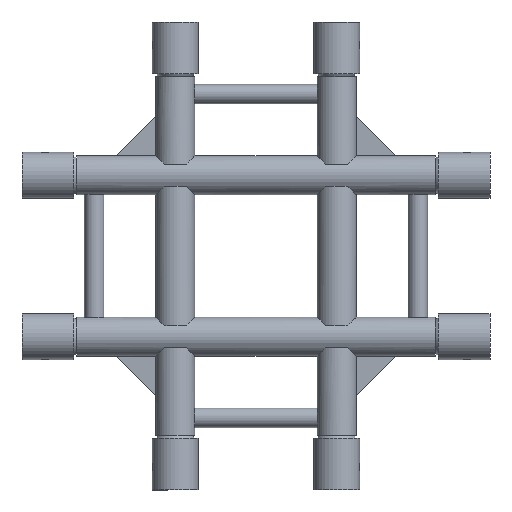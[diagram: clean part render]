
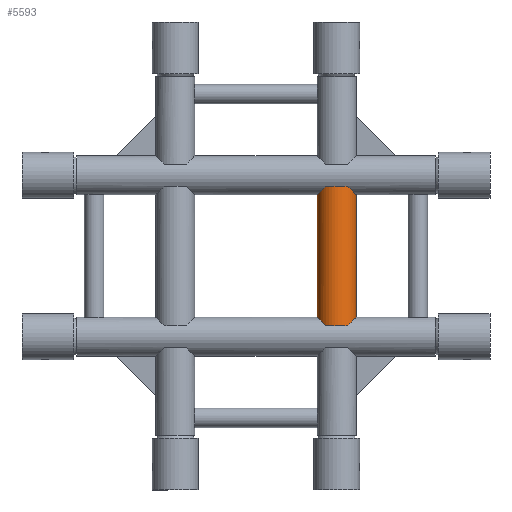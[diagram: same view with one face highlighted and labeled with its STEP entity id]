
A CAD part, front view. The second image highlights one B-rep face of the part: STEP entity #5593.
In plain terms, the highlighted cylindrical face has radius 25 mm (diameter 50 mm), a full revolution.
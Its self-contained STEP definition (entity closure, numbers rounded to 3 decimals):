
#38=ELLIPSE('',#5702,35.355,25.);
#39=ELLIPSE('',#5703,35.355,25.);
#80=ELLIPSE('',#5841,35.355,25.);
#81=ELLIPSE('',#5842,35.355,25.);
#252=FACE_BOUND('',#1775,.T.);
#1228=FACE_OUTER_BOUND('',#1774,.T.);
#1774=EDGE_LOOP('',(#4526,#4527,#4528,#4529));
#1775=EDGE_LOOP('',(#4530,#4531,#4532,#4533));
#2122=CIRCLE('',#6248,25.);
#2123=CIRCLE('',#6250,25.);
#2124=CIRCLE('',#6252,25.);
#2125=CIRCLE('',#6254,25.);
#2324=VERTEX_POINT('',#8163);
#2325=VERTEX_POINT('',#8164);
#2326=VERTEX_POINT('',#8166);
#2327=VERTEX_POINT('',#8168);
#2474=VERTEX_POINT('',#9430);
#2475=VERTEX_POINT('',#9431);
#2476=VERTEX_POINT('',#9433);
#2477=VERTEX_POINT('',#9435);
#2766=EDGE_CURVE('',#2324,#2325,#38,.T.);
#2768=EDGE_CURVE('',#2326,#2327,#39,.T.);
#2950=EDGE_CURVE('',#2474,#2475,#80,.T.);
#2952=EDGE_CURVE('',#2476,#2477,#81,.T.);
#3262=EDGE_CURVE('',#2477,#2474,#2122,.T.);
#3263=EDGE_CURVE('',#2475,#2476,#2123,.T.);
#3264=EDGE_CURVE('',#2327,#2324,#2124,.T.);
#3265=EDGE_CURVE('',#2325,#2326,#2125,.T.);
#4526=ORIENTED_EDGE('',*,*,#2952,.F.);
#4527=ORIENTED_EDGE('',*,*,#3263,.F.);
#4528=ORIENTED_EDGE('',*,*,#2950,.F.);
#4529=ORIENTED_EDGE('',*,*,#3262,.F.);
#4530=ORIENTED_EDGE('',*,*,#2768,.F.);
#4531=ORIENTED_EDGE('',*,*,#3265,.F.);
#4532=ORIENTED_EDGE('',*,*,#2766,.F.);
#4533=ORIENTED_EDGE('',*,*,#3264,.F.);
#4888=CYLINDRICAL_SURFACE('',#6255,25.);
#5593=ADVANCED_FACE('',(#1228,#252),#4888,.T.);
#5702=AXIS2_PLACEMENT_3D('',#8165,#6441,#6442);
#5703=AXIS2_PLACEMENT_3D('',#8169,#6444,#6445);
#5841=AXIS2_PLACEMENT_3D('',#9432,#6773,#6774);
#5842=AXIS2_PLACEMENT_3D('',#9436,#6776,#6777);
#6248=AXIS2_PLACEMENT_3D('',#11151,#7677,#7678);
#6250=AXIS2_PLACEMENT_3D('',#11153,#7681,#7682);
#6252=AXIS2_PLACEMENT_3D('',#11155,#7685,#7686);
#6254=AXIS2_PLACEMENT_3D('',#11157,#7689,#7690);
#6255=AXIS2_PLACEMENT_3D('',#11158,#7691,#7692);
#6441=DIRECTION('center_axis',(0.707,0.,0.707));
#6442=DIRECTION('ref_axis',(-0.707,0.,0.707));
#6444=DIRECTION('center_axis',(-0.707,0.,
0.707));
#6445=DIRECTION('ref_axis',(-0.707,0.,-0.707));
#6773=DIRECTION('center_axis',(-0.707,0.,
-0.707));
#6774=DIRECTION('ref_axis',(-0.707,0.,0.707));
#6776=DIRECTION('center_axis',(0.707,0.,
-0.707));
#6777=DIRECTION('ref_axis',(-0.707,0.,-0.707));
#7677=DIRECTION('center_axis',(0.,0.,
-1.));
#7678=DIRECTION('ref_axis',(-1.,0.,0.));
#7681=DIRECTION('center_axis',(0.,0.,
-1.));
#7682=DIRECTION('ref_axis',(-1.,0.,0.));
#7685=DIRECTION('center_axis',(0.,0.,
1.));
#7686=DIRECTION('ref_axis',(-1.,0.,0.));
#7689=DIRECTION('center_axis',(0.,0.,
1.));
#7690=DIRECTION('ref_axis',(-1.,0.,0.));
#7691=DIRECTION('center_axis',(0.,0.,1.));
#7692=DIRECTION('ref_axis',(-1.,0.,0.));
#8163=CARTESIAN_POINT('',(417.5,-20.712,-14.));
#8164=CARTESIAN_POINT('',(417.5,20.712,-14.));
#8165=CARTESIAN_POINT('Origin',(403.5,0.,0.));
#8166=CARTESIAN_POINT('',(389.5,20.712,-14.));
#8168=CARTESIAN_POINT('',(389.5,-20.712,-14.));
#8169=CARTESIAN_POINT('Origin',(403.5,0.,0.));
#9430=CARTESIAN_POINT('',(389.5,-20.712,-193.));
#9431=CARTESIAN_POINT('',(389.5,20.712,-193.));
#9432=CARTESIAN_POINT('Origin',(403.5,0.,-207.));
#9433=CARTESIAN_POINT('',(417.5,20.712,-193.));
#9435=CARTESIAN_POINT('',(417.5,-20.712,-193.));
#9436=CARTESIAN_POINT('Origin',(403.5,0.,-207.));
#11151=CARTESIAN_POINT('Origin',(403.5,0.,-193.));
#11153=CARTESIAN_POINT('Origin',(403.5,0.,-193.));
#11155=CARTESIAN_POINT('Origin',(403.5,0.,-14.));
#11157=CARTESIAN_POINT('Origin',(403.5,0.,-14.));
#11158=CARTESIAN_POINT('Origin',(403.5,0.,-193.));
